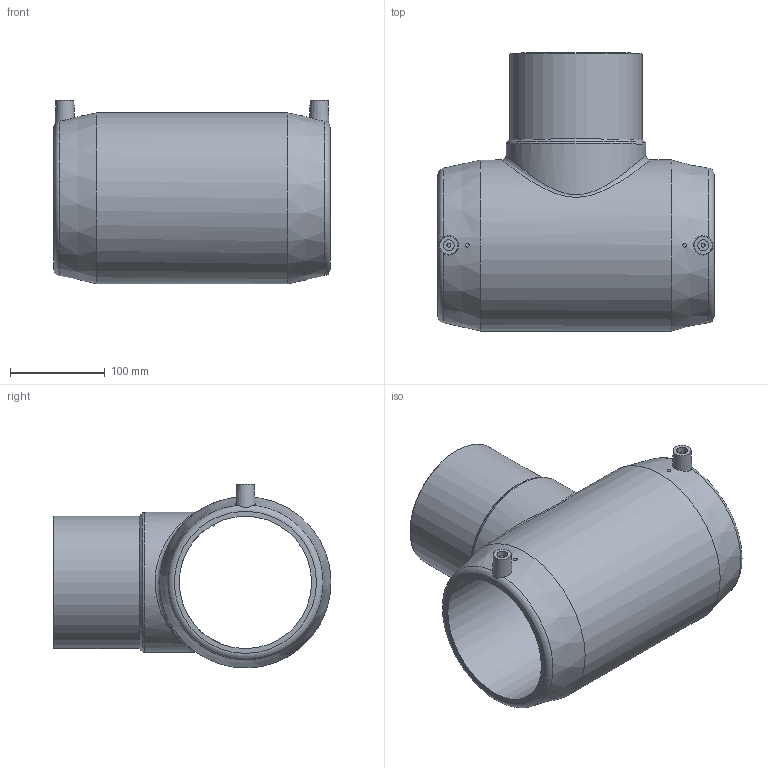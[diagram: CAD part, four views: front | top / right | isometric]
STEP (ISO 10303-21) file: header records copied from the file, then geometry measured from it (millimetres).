
FILE_DESCRIPTION(/* description */ ('Unknown'),/* implementation_level */ '2;1');
FILE_NAME(/* name */ 'TEP140C',/* time_stamp */ '2020-12-09T17:57:12+01:00',/* author */ ('Unknown'),/* organization */ ('Unknown'),/* preprocessor_version */ 'ST-DEVELOPER v16.7',/* originating_system */ 'Solid Edge',/* authorisation */ 'Unknown');
FILE_SCHEMA (('AUTOMOTIVE_DESIGN {1 0 10303 214 3 1 1}'));
Length unit declared in the file: millimetre
Products named in the file (1): TEP140C
Bounding box: 292 x 294 x 194.5 mm (x, y, z)
Volume: 3259164.9 mm3; surface area: 391565.3 mm2
Topology: 1 solids, 1 shells, 37 faces, 81 edges, 53 vertices
Faces by surface type: plane 16, cylinder 11, cone 6, torus 3, bspline 1
Full cylindrical faces by diameter (mm): 4 x4, 11.5 x2, 114.6 x1, 140 x2, 148 x1, 181 x1
Entity records: 1305 total; most frequent: CARTESIAN_POINT 614, DIRECTION 140, ORIENTED_EDGE 94, EDGE_LOOP 70, FACE_BOUND 70, AXIS2_PLACEMENT_3D 65, EDGE_CURVE 47, VERTEX_POINT 41
